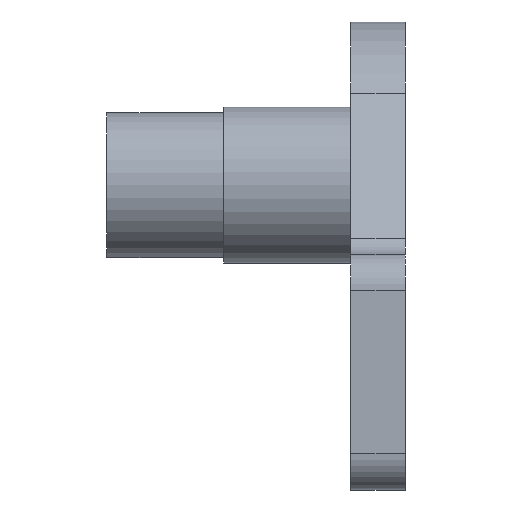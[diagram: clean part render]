
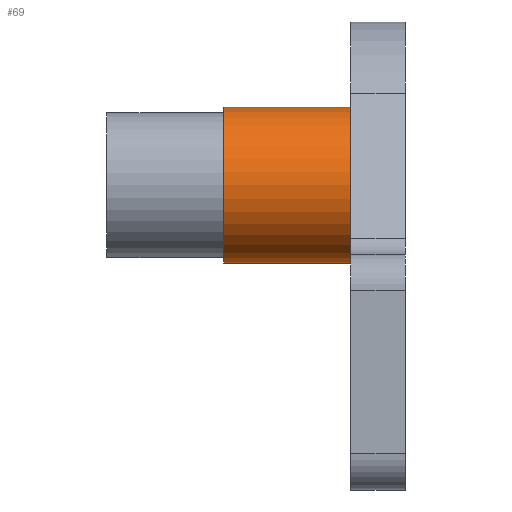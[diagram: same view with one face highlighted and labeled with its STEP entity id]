
A CAD part, left-side view. The second image highlights one B-rep face of the part: STEP entity #69.
In plain terms, the highlighted cylindrical face has radius 21.5 mm (diameter 43 mm), a partial arc.
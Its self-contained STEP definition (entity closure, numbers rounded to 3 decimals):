
#63 = CIRCLE ( 'NONE', #3481, 21.5 ) ;
#69 = ADVANCED_FACE ( 'NONE', ( #1866 ), #4936, .T. ) ;
#336 = VERTEX_POINT ( 'NONE', #3340 ) ;
#453 = DIRECTION ( 'NONE',  ( 0., 0., 1. ) ) ;
#482 = VECTOR ( 'NONE', #501, 1000. ) ;
#501 = DIRECTION ( 'NONE',  ( 0., -1., 0. ) ) ;
#677 = EDGE_CURVE ( 'NONE', #3202, #1550, #3145, .T. ) ;
#775 = VERTEX_POINT ( 'NONE', #2165 ) ;
#880 = AXIS2_PLACEMENT_3D ( 'NONE', #2650, #1468, #4153 ) ;
#1162 = AXIS2_PLACEMENT_3D ( 'NONE', #1595, #1222, #1197 ) ;
#1197 = DIRECTION ( 'NONE',  ( 0., 0., 1. ) ) ;
#1222 = DIRECTION ( 'NONE',  ( 0., -1., 0. ) ) ;
#1332 = LINE ( 'NONE', #1990, #3368 ) ;
#1468 = DIRECTION ( 'NONE',  ( 0., -1., 0. ) ) ;
#1550 = VERTEX_POINT ( 'NONE', #2676 ) ;
#1595 = CARTESIAN_POINT ( 'NONE',  ( 0., 50.1, 0. ) ) ;
#1642 = ORIENTED_EDGE ( 'NONE', *, *, #4720, .F. ) ;
#1691 = DIRECTION ( 'NONE',  ( 0., 1., 0. ) ) ;
#1866 = FACE_OUTER_BOUND ( 'NONE', #2971, .T. ) ;
#1990 = CARTESIAN_POINT ( 'NONE',  ( 0., 82.3, 21.5 ) ) ;
#2082 = EDGE_CURVE ( 'NONE', #1550, #775, #63, .T. ) ;
#2165 = CARTESIAN_POINT ( 'NONE',  ( 0., 15., 21.5 ) ) ;
#2650 = CARTESIAN_POINT ( 'NONE',  ( 0., 82.3, 0. ) ) ;
#2667 = EDGE_CURVE ( 'NONE', #336, #3202, #4117, .T. ) ;
#2676 = CARTESIAN_POINT ( 'NONE',  ( 0., 15., -21.5 ) ) ;
#2971 = EDGE_LOOP ( 'NONE', ( #1642, #4360, #3822, #3916 ) ) ;
#3116 = DIRECTION ( 'NONE',  ( 0., -1., 0. ) ) ;
#3145 = LINE ( 'NONE', #3862, #482 ) ;
#3194 = CARTESIAN_POINT ( 'NONE',  ( 0., 15., 0. ) ) ;
#3202 = VERTEX_POINT ( 'NONE', #4316 ) ;
#3340 = CARTESIAN_POINT ( 'NONE',  ( 0., 50.1, 21.5 ) ) ;
#3368 = VECTOR ( 'NONE', #3116, 1000. ) ;
#3481 = AXIS2_PLACEMENT_3D ( 'NONE', #3194, #1691, #453 ) ;
#3822 = ORIENTED_EDGE ( 'NONE', *, *, #677, .T. ) ;
#3862 = CARTESIAN_POINT ( 'NONE',  ( 0., 82.3, -21.5 ) ) ;
#3916 = ORIENTED_EDGE ( 'NONE', *, *, #2082, .T. ) ;
#4117 = CIRCLE ( 'NONE', #1162, 21.5 ) ;
#4153 = DIRECTION ( 'NONE',  ( 0., 0., -1. ) ) ;
#4316 = CARTESIAN_POINT ( 'NONE',  ( 0., 50.1, -21.5 ) ) ;
#4360 = ORIENTED_EDGE ( 'NONE', *, *, #2667, .T. ) ;
#4720 = EDGE_CURVE ( 'NONE', #336, #775, #1332, .T. ) ;
#4936 = CYLINDRICAL_SURFACE ( 'NONE', #880, 21.5 ) ;
